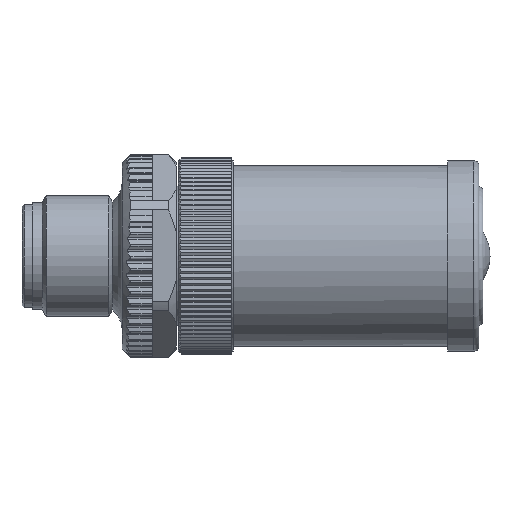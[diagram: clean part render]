
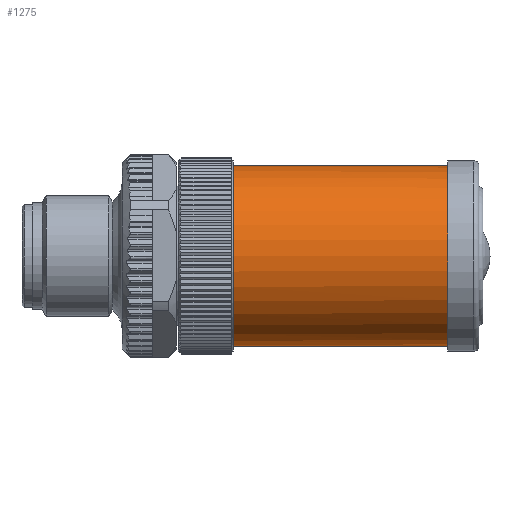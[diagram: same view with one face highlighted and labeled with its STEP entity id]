
A CAD part, top view. The second image highlights one B-rep face of the part: STEP entity #1275.
In plain terms, the highlighted cylindrical face has radius 9 mm (diameter 18 mm), a full revolution.
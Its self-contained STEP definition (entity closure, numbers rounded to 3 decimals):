
#47=ELLIPSE('',#12202,12.728,9.);
#48=ELLIPSE('',#12203,12.728,9.);
#49=ELLIPSE('',#12204,12.728,9.);
#530=FACE_BOUND('',#2710,.T.);
#531=FACE_BOUND('',#2711,.T.);
#1275=ADVANCED_FACE('',(#530,#531),#1671,.T.);
#1671=CYLINDRICAL_SURFACE('',#12209,9.);
#2710=EDGE_LOOP('',(#5336));
#2711=EDGE_LOOP('',(#5337,#5338,#5339,#5340));
#3240=CIRCLE('',#11978,9.);
#3254=CIRCLE('',#12207,9.);
#5336=ORIENTED_EDGE('',*,*,#8517,.T.);
#5337=ORIENTED_EDGE('',*,*,#9033,.F.);
#5338=ORIENTED_EDGE('',*,*,#9032,.F.);
#5339=ORIENTED_EDGE('',*,*,#9038,.F.);
#5340=ORIENTED_EDGE('',*,*,#9040,.T.);
#7335=VERTEX_POINT('',#16619);
#7551=VERTEX_POINT('',#18189);
#7552=VERTEX_POINT('',#18190);
#7553=VERTEX_POINT('',#18192);
#7556=VERTEX_POINT('',#18205);
#8517=EDGE_CURVE('',#7335,#7335,#3240,.T.);
#9032=EDGE_CURVE('',#7551,#7552,#47,.T.);
#9033=EDGE_CURVE('',#7552,#7553,#48,.T.);
#9038=EDGE_CURVE('',#7556,#7551,#49,.T.);
#9040=EDGE_CURVE('',#7556,#7553,#3254,.T.);
#11978=AXIS2_PLACEMENT_3D('',#16618,#13547,#13548);
#12202=AXIS2_PLACEMENT_3D('',#18188,#14297,#14298);
#12203=AXIS2_PLACEMENT_3D('',#18191,#14299,#14300);
#12204=AXIS2_PLACEMENT_3D('',#18206,#14303,#14304);
#12207=AXIS2_PLACEMENT_3D('',#18209,#14309,#14310);
#12209=AXIS2_PLACEMENT_3D('',#18211,#14313,#14314);
#13547=DIRECTION('',(1.,0.,0.));
#13548=DIRECTION('',(0.,0.,-1.));
#14297=DIRECTION('',(0.707,0.,-0.707));
#14298=DIRECTION('',(0.707,0.,0.707));
#14299=DIRECTION('',(-0.707,0.,-0.707));
#14300=DIRECTION('',(0.707,0.,-0.707));
#14303=DIRECTION('',(-0.707,0.,-0.707));
#14304=DIRECTION('',(0.707,0.,-0.707));
#14309=DIRECTION('',(-1.,0.,0.));
#14310=DIRECTION('',(0.,0.,-1.));
#14313=DIRECTION('',(1.,0.,0.));
#14314=DIRECTION('',(0.,0.,-1.));
#16618=CARTESIAN_POINT('',(13.6,0.,0.));
#16619=CARTESIAN_POINT('',(13.6,0.,-9.));
#18188=CARTESIAN_POINT('',(27.4,0.,0.));
#18189=CARTESIAN_POINT('',(27.4,-9.,0.));
#18190=CARTESIAN_POINT('',(27.4,9.,0.));
#18191=CARTESIAN_POINT('',(27.4,0.,0.));
#18192=CARTESIAN_POINT('',(35.,4.821,-7.6));
#18205=CARTESIAN_POINT('',(35.,-4.821,-7.6));
#18206=CARTESIAN_POINT('',(27.4,0.,0.));
#18209=CARTESIAN_POINT('',(35.,0.,0.));
#18211=CARTESIAN_POINT('',(24.,0.,0.));
